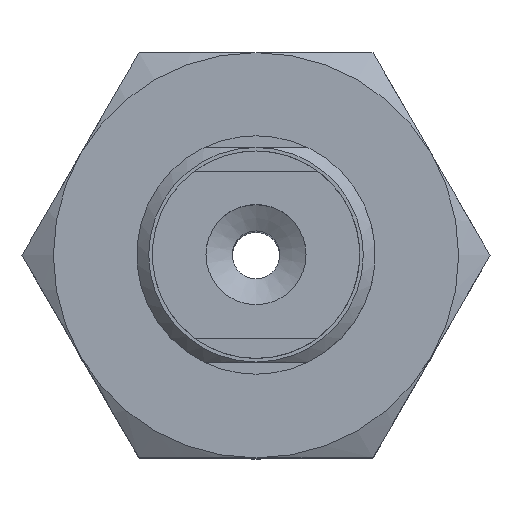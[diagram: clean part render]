
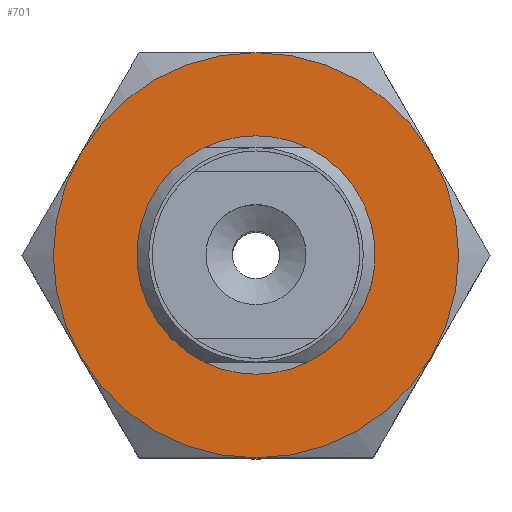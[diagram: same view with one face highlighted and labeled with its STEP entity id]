
A CAD part, top view. The second image highlights one B-rep face of the part: STEP entity #701.
In plain terms, the highlighted planar face has unit normal (0, 0, 1).
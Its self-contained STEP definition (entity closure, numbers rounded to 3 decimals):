
#701=ADVANCED_FACE('',(#958,#959),#960,.T.);
#958=FACE_BOUND('',#1303,.T.);
#959=FACE_OUTER_BOUND('',#1304,.T.);
#960=PLANE('',#1305);
#1303=EDGE_LOOP('',(#2950));
#1304=EDGE_LOOP('',(#2951,#2952,#2953,#2954,#2955,#2956));
#1305=AXIS2_PLACEMENT_3D('',#2957,#2958,#2959);
#2950=ORIENTED_EDGE('',*,*,#3524,.F.);
#2951=ORIENTED_EDGE('',*,*,#3529,.F.);
#2952=ORIENTED_EDGE('',*,*,#3531,.F.);
#2953=ORIENTED_EDGE('',*,*,#3510,.F.);
#2954=ORIENTED_EDGE('',*,*,#3505,.F.);
#2955=ORIENTED_EDGE('',*,*,#3533,.F.);
#2956=ORIENTED_EDGE('',*,*,#3530,.F.);
#2957=CARTESIAN_POINT('',(-9.815,-8.5,4.0));
#2958=DIRECTION('',(0.0,0.0,1.0));
#2959=DIRECTION('',(1.0,0.0,0.0));
#3505=EDGE_CURVE('',#3825,#3828,#3829,.T.);
#3510=EDGE_CURVE('',#3828,#3813,#3835,.T.);
#3524=EDGE_CURVE('',#3859,#3859,#3860,.T.);
#3529=EDGE_CURVE('',#3854,#3863,#3866,.T.);
#3530=EDGE_CURVE('',#3863,#3848,#3867,.T.);
#3531=EDGE_CURVE('',#3813,#3854,#3868,.T.);
#3533=EDGE_CURVE('',#3848,#3825,#3870,.T.);
#3813=VERTEX_POINT('',#4380);
#3825=VERTEX_POINT('',#4410);
#3828=VERTEX_POINT('',#4421);
#3829=CIRCLE('',#4422,8.5);
#3835=CIRCLE('',#4444,8.5);
#3848=VERTEX_POINT('',#4474);
#3854=VERTEX_POINT('',#4493);
#3859=VERTEX_POINT('',#4506);
#3860=CIRCLE('',#4507,4.5);
#3863=VERTEX_POINT('',#4514);
#3866=CIRCLE('',#4525,8.5);
#3867=CIRCLE('',#4526,8.5);
#3868=CIRCLE('',#4527,8.5);
#3870=CIRCLE('',#4529,8.5);
#4380=CARTESIAN_POINT('',(7.361,-4.25,4.0));
#4410=CARTESIAN_POINT('',(0.,8.5,4.0));
#4421=CARTESIAN_POINT('',(7.361,4.25,4.0));
#4422=AXIS2_PLACEMENT_3D('',#5149,#5150,#5151);
#4444=AXIS2_PLACEMENT_3D('',#5152,#5153,#5154);
#4474=CARTESIAN_POINT('',(-7.361,4.25,4.0));
#4493=CARTESIAN_POINT('',(0.,-8.5,4.0));
#4506=CARTESIAN_POINT('',(0.0,-4.5,4.0));
#4507=AXIS2_PLACEMENT_3D('',#5163,#5164,#5165);
#4514=CARTESIAN_POINT('',(-7.361,-4.25,4.0));
#4525=AXIS2_PLACEMENT_3D('',#5169,#5170,#5171);
#4526=AXIS2_PLACEMENT_3D('',#5172,#5173,#5174);
#4527=AXIS2_PLACEMENT_3D('',#5175,#5176,#5177);
#4529=AXIS2_PLACEMENT_3D('',#5181,#5182,#5183);
#5149=CARTESIAN_POINT('',(0.,0.,4.0));
#5150=DIRECTION('',(0.,0.,-1.0));
#5151=DIRECTION('',(0.866,0.5,0.));
#5152=CARTESIAN_POINT('',(0.,0.,4.0));
#5153=DIRECTION('',(0.,0.,-1.0));
#5154=DIRECTION('',(0.866,0.5,0.));
#5163=CARTESIAN_POINT('',(0.0,0.0,4.0));
#5164=DIRECTION('',(0.0,0.,1.0));
#5165=DIRECTION('',(0.0,-1.0,0.));
#5169=CARTESIAN_POINT('',(0.,0.,4.0));
#5170=DIRECTION('',(0.,0.,-1.0));
#5171=DIRECTION('',(0.866,0.5,0.));
#5172=CARTESIAN_POINT('',(0.,0.,4.0));
#5173=DIRECTION('',(0.,0.,-1.0));
#5174=DIRECTION('',(0.866,0.5,0.));
#5175=CARTESIAN_POINT('',(0.,0.,4.0));
#5176=DIRECTION('',(0.,0.,-1.0));
#5177=DIRECTION('',(0.866,0.5,0.));
#5181=CARTESIAN_POINT('',(0.,0.,4.0));
#5182=DIRECTION('',(0.,0.,-1.0));
#5183=DIRECTION('',(0.866,0.5,0.));
